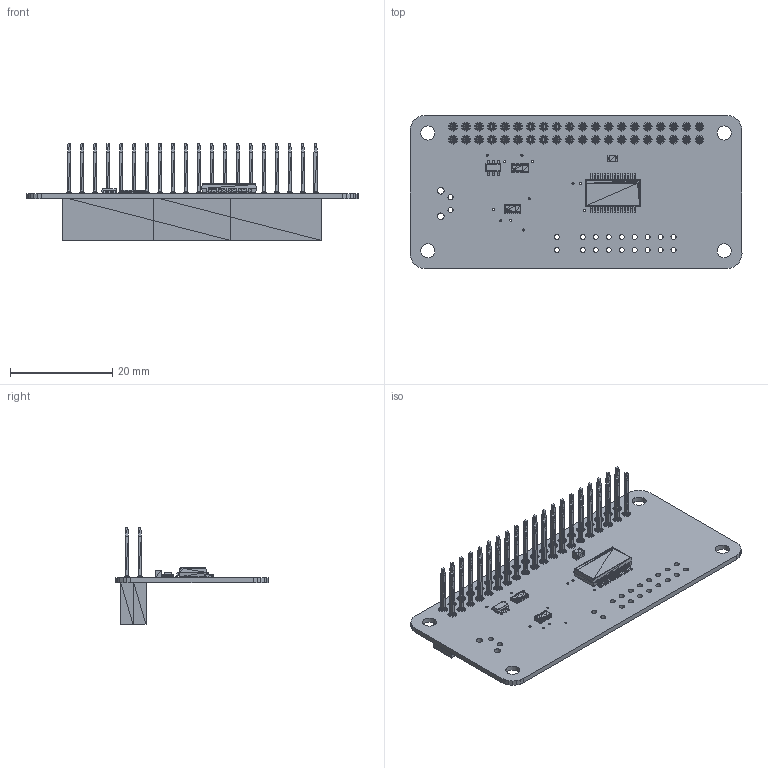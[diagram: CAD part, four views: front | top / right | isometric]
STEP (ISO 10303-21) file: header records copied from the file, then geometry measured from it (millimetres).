
FILE_DESCRIPTION(/* description */ (''),/* implementation_level */ '2;1');
FILE_NAME(/* name */ 'C:/Users/andrew/Desktop/3D Models/io-pi-zero-1.0.step',/* time_stamp */ '2018-02-10T15:31:12+00:00',/* author */ ('and101'),/* organization */ (''),/* preprocessor_version */ 'ST-DEVELOPER v16.13',/* originating_system */ 'Autodesk Translation Framework v6.5.0.72',/* authorisation */ '');
FILE_SCHEMA (('AUTOMOTIVE_DESIGN { 1 0 10303 214 3 1 1 }'));
Products named in the file (7): io-pi-zero-1.0; Board_io-pi-zero; sot23-6; cap_0805; rescav-8_1.6x3.2x0; ssop-28; 40_way_header
Assembly tree (7 placements, depth 2):
  io-pi-zero-1.0
    Board_io-pi-zero
    sot23-6
    cap_0805
    rescav-8_1.6x3.2x0  x2
    ssop-28
    40_way_header
Bounding box: 65 x 30 x 18.97 mm (x, y, z)
Volume: 4881.8 mm3; surface area: 9184.4 mm2
Topology: 163 solids, 163 shells, 28863 faces, 43733 edges, 15188 vertices
Faces by surface type: plane 28717, cylinder 110, bspline 36
Full cylindrical faces by diameter (mm): 0.406 x24, 1 x60, 1.3 x2, 2.75 x4
Entity records: 533765 total; most frequent: DIRECTION 95161, CARTESIAN_POINT 83590, ORIENTED_EDGE 81822, EDGE_CURVE 40911, LINE 40431, VECTOR 40431, AXIS2_PLACEMENT_3D 27365, EDGE_LOOP 27167
